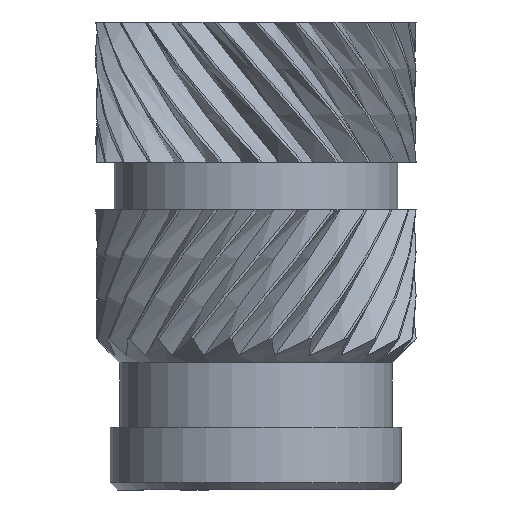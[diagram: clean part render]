
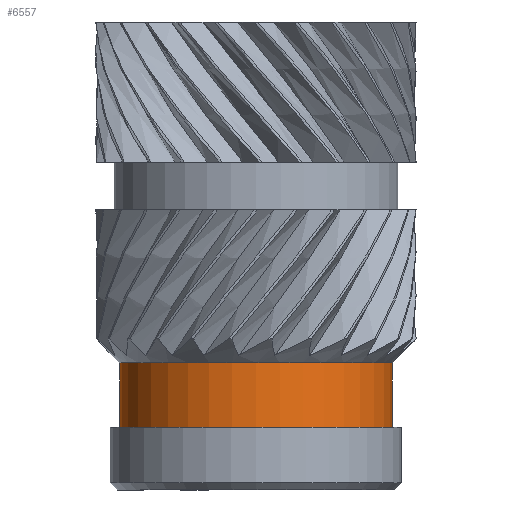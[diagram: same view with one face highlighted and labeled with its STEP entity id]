
A CAD part, front view. The second image highlights one B-rep face of the part: STEP entity #6557.
In plain terms, the highlighted cylindrical face has radius 3.7 mm (diameter 7.4 mm), a full revolution.
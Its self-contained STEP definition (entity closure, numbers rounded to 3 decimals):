
#515=FACE_OUTER_BOUND('',#896,.T.);
#896=EDGE_LOOP('',(#5275,#5276,#5277,#5278));
#1138=CIRCLE('',#6847,3.7);
#1177=CIRCLE('',#6913,3.7);
#1834=LINE('',#13710,#2161);
#2161=VECTOR('',#7482,3.7);
#2636=VERTEX_POINT('',#9511);
#2748=VERTEX_POINT('',#11238);
#3356=EDGE_CURVE('',#2636,#2636,#1138,.T.);
#3542=EDGE_CURVE('',#2748,#2748,#1177,.T.);
#3702=EDGE_CURVE('',#2636,#2748,#1834,.T.);
#5275=ORIENTED_EDGE('',*,*,#3356,.F.);
#5276=ORIENTED_EDGE('',*,*,#3702,.T.);
#5277=ORIENTED_EDGE('',*,*,#3542,.T.);
#5278=ORIENTED_EDGE('',*,*,#3702,.F.);
#6371=CYLINDRICAL_SURFACE('',#6972,3.7);
#6557=ADVANCED_FACE('',(#515),#6371,.T.);
#6847=AXIS2_PLACEMENT_3D('',#9513,#7228,#7229);
#6913=AXIS2_PLACEMENT_3D('',#11239,#7360,#7361);
#6972=AXIS2_PLACEMENT_3D('',#13709,#7480,#7481);
#7228=DIRECTION('center_axis',(0.,0.,1.));
#7229=DIRECTION('ref_axis',(1.,0.,0.));
#7360=DIRECTION('center_axis',(0.,0.,1.));
#7361=DIRECTION('ref_axis',(1.,0.,0.));
#7480=DIRECTION('center_axis',(0.,0.,1.));
#7481=DIRECTION('ref_axis',(1.,0.,0.));
#7482=DIRECTION('',(0.,0.,-1.));
#9511=CARTESIAN_POINT('',(-3.7,0.,3.45));
#9513=CARTESIAN_POINT('Origin',(0.,0.,3.45));
#11238=CARTESIAN_POINT('',(-3.7,0.,1.7));
#11239=CARTESIAN_POINT('Origin',(0.,0.,1.7));
#13709=CARTESIAN_POINT('Origin',(0.,0.,2.575));
#13710=CARTESIAN_POINT('',(-3.7,0.,2.575));
